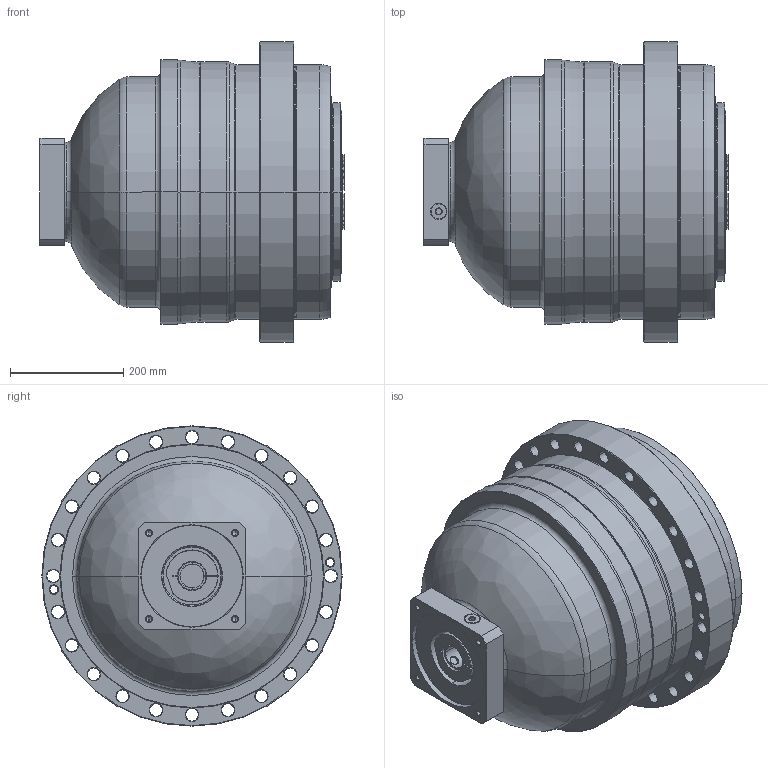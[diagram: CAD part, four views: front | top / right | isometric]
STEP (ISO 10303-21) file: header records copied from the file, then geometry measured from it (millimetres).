
FILE_DESCRIPTION((''),'2;1');
FILE_NAME('APC450_3ST_42-P0409A00201_ASM','2018-11-01T',('d01226'),(''),'PRO/ENGINEER BY PARAMETRIC TECHNOLOGY CORPORATION, 2015240','PRO/ENGINEER BY PARAMETRIC TECHNOLOGY CORPORATION, 2015240','');
FILE_SCHEMA(('CONFIG_CONTROL_DESIGN'));
Length unit declared in the file: millimetre
Products named in the file (9): P0276201003; P03572B0103; P1366A00201; P0503A00012; P0912702001; P1222200001; P0409A00201; 21711422019; APC450_3ST_42-P0409A00201_ASM
Assembly tree (8 placements, depth 2):
  APC450_3ST_42-P0409A00201_ASM
    P0276201003
    P03572B0103
    P1366A00201
    P0503A00012
    P0912702001
    P1222200001
    P0409A00201
    21711422019
Bounding box: 537.6 x 530 x 530 mm (x, y, z)
Volume: 78248242.5 mm3; surface area: 2104568.9 mm2
Topology: 9 solids, 34 shells, 991 faces, 2451 edges, 1497 vertices
Faces by surface type: cone 338, cylinder 300, plane 183, torus 156, bspline 14
Entity records: 35681 total; most frequent: CARTESIAN_POINT 11868, DIRECTION 5329, ORIENTED_EDGE 4704, EDGE_CURVE 2401, AXIS2_PLACEMENT_3D 2317, VERTEX_POINT 1497, CIRCLE 1311, EDGE_LOOP 1126
